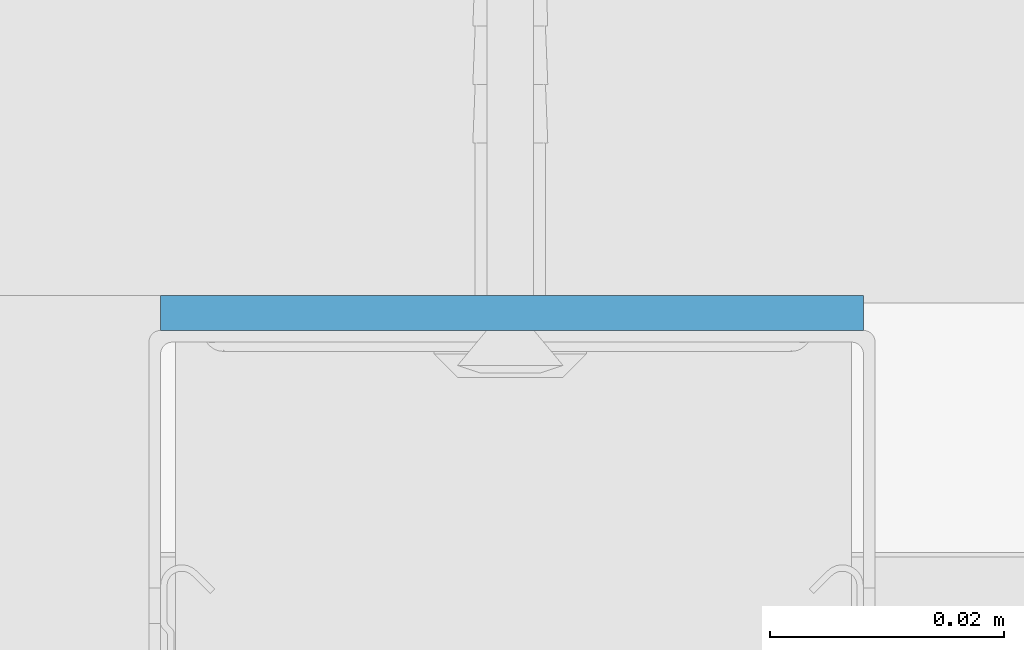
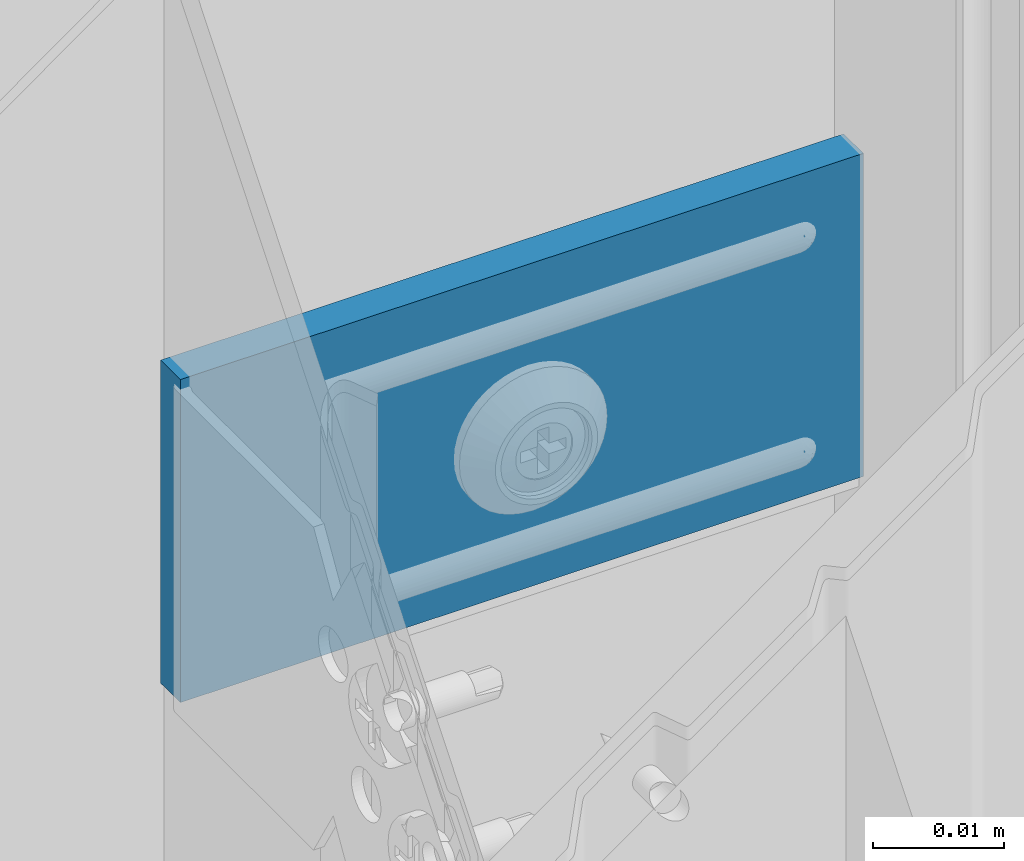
# One storey, part 62 of 62: 1 wall.
"""IFC2X3 building model written with IfcOpenShell, lengths in millimetres."""

from ifc_helpers import new_model, entity, si_unit, converted_unit, direction, frame, origin, origin_with_axes, place, context, project, spatial, faceted_brep, element, save


model = new_model("IFC2X3")

# Units and contexts
model_context = context("Model", 3, precision=1e-05, world=origin(), true_north=direction((0.0, 1.0, 0.0)))
ifc_project = project(units=[si_unit("LENGTHUNIT", "METRE", prefix="MILLI"), si_unit("AREAUNIT", "SQUARE_METRE"), si_unit("VOLUMEUNIT", "CUBIC_METRE"), converted_unit("PLANEANGLEUNIT", "DEGREE", entity("IfcPlaneAngleMeasure", 0.01745), si_unit("PLANEANGLEUNIT", "RADIAN"), dimensions=[0, 0, 0, 0, 0, 0, 0]), si_unit("SOLIDANGLEUNIT", "STERADIAN"), si_unit("MASSUNIT", "GRAM"), si_unit("TIMEUNIT", "SECOND"), si_unit("THERMODYNAMICTEMPERATUREUNIT", "DEGREE_CELSIUS"), si_unit("LUMINOUSINTENSITYUNIT", "LUMEN")], contexts=[model_context])

# Site, building, storey
site_placement = place(None, origin_with_axes())
site = spatial("IfcSite", under=ifc_project, at=site_placement, Name="Default Site", CompositionType="ELEMENT")
building_placement = place(site_placement, origin_with_axes())
building = spatial("IfcBuilding", under=site, at=building_placement, Name="Default Building", CompositionType="ELEMENT")
storey_placement = place(building_placement, origin_with_axes())
storey = spatial("IfcBuildingStorey", under=building, at=storey_placement, Name="Default Building Storey", CompositionType="ELEMENT", Elevation=0.0)

# Wall
wall_placement = place(storey_placement, frame((3458.037086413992, 2019.778611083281, 1272.848239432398), z_axis=(0.0, 0.0, -1.0), x_axis=(1.0, 0.0, 0.0)))
element("IfcWall", 1, at=wall_placement, inside=storey, Name="Taśma uszczelniająca piankowa RIGIPS szer.30mm", context=model_context, shape_type="Brep", body=[
    faceted_brep([(59.99999999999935, 0.0, 4.511946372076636e-12), (0.0, 0.0, 0.0), (1.082867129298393e-12, 2.237925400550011e-11, -30.00000000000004), (60.00000000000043, 2.237925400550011e-11, -29.99999999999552), (0.0, -3.00000000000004, 0.0), (1.082867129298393e-12, -2.999999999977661, -30.00000000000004), (60.00000000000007, -3.00000000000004, 0.0), (60.00000000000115, -2.999999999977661, -30.00000000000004)], [[[0, 1, 2, 3]], [[1, 4, 5, 2]], [[4, 6, 7, 5]], [[6, 0, 3, 7]], [[7, 3, 2, 5]], [[0, 6, 4, 1]]]),
])

save(model, "model.ifc")
